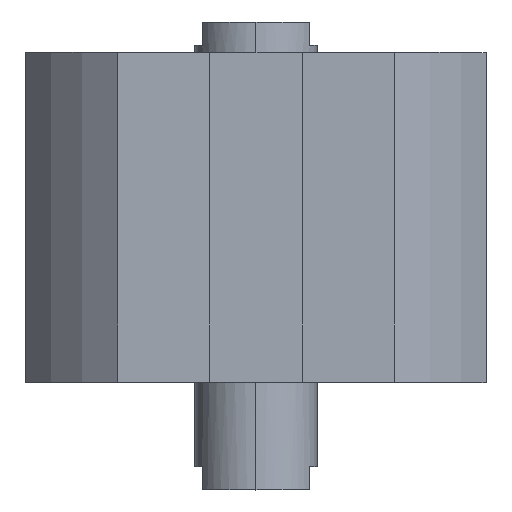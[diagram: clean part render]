
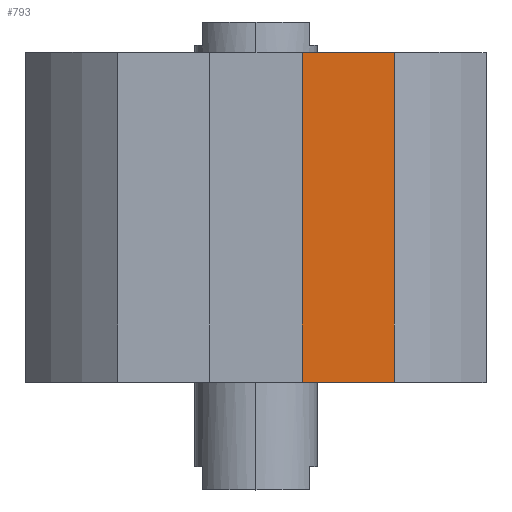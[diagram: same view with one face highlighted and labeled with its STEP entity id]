
A CAD part, top view. The second image highlights one B-rep face of the part: STEP entity #793.
In plain terms, the highlighted planar face has unit normal (0, 0, 1).
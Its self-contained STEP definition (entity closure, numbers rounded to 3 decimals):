
#21 = EDGE_CURVE ( 'NONE', #1596, #1365, #1420, .T. ) ;
#93 = DIRECTION ( 'NONE',  ( 0., 1., 0. ) ) ;
#140 = ORIENTED_EDGE ( 'NONE', *, *, #21, .T. ) ;
#248 = EDGE_CURVE ( 'NONE', #556, #1596, #2419, .T. ) ;
#556 = VERTEX_POINT ( 'NONE', #3495 ) ;
#570 = ORIENTED_EDGE ( 'NONE', *, *, #699, .F. ) ;
#646 = ORIENTED_EDGE ( 'NONE', *, *, #1737, .F. ) ;
#699 = EDGE_CURVE ( 'NONE', #556, #2090, #827, .T. ) ;
#793 = ADVANCED_FACE ( 'NONE', ( #3549 ), #877, .T. ) ;
#827 = LINE ( 'NONE', #3884, #4038 ) ;
#877 = PLANE ( 'NONE',  #3553 ) ;
#928 = DIRECTION ( 'NONE',  ( 1., 0., 0. ) ) ;
#1234 = DIRECTION ( 'NONE',  ( 0., 1., 0. ) ) ;
#1365 = VERTEX_POINT ( 'NONE', #1952 ) ;
#1420 = LINE ( 'NONE', #3676, #1866 ) ;
#1477 = VECTOR ( 'NONE', #928, 1000. ) ;
#1545 = DIRECTION ( 'NONE',  ( 1., 0., 0. ) ) ;
#1596 = VERTEX_POINT ( 'NONE', #2516 ) ;
#1737 = EDGE_CURVE ( 'NONE', #2090, #1365, #3217, .T. ) ;
#1866 = VECTOR ( 'NONE', #1234, 1000. ) ;
#1892 = EDGE_LOOP ( 'NONE', ( #646, #570, #3442, #140 ) ) ;
#1952 = CARTESIAN_POINT ( 'NONE',  ( 18.028, 0., 30. ) ) ;
#2090 = VERTEX_POINT ( 'NONE', #3837 ) ;
#2219 = DIRECTION ( 'NONE',  ( 0., 0., 1. ) ) ;
#2419 = LINE ( 'NONE', #4447, #1477 ) ;
#2516 = CARTESIAN_POINT ( 'NONE',  ( 18.028, -43., 30. ) ) ;
#2928 = CARTESIAN_POINT ( 'NONE',  ( 0., 0., 30. ) ) ;
#3217 = LINE ( 'NONE', #2928, #4362 ) ;
#3442 = ORIENTED_EDGE ( 'NONE', *, *, #248, .T. ) ;
#3495 = CARTESIAN_POINT ( 'NONE',  ( 6., -43., 30. ) ) ;
#3549 = FACE_OUTER_BOUND ( 'NONE', #1892, .T. ) ;
#3553 = AXIS2_PLACEMENT_3D ( 'NONE', #3965, #2219, #3948 ) ;
#3676 = CARTESIAN_POINT ( 'NONE',  ( 18.028, -43., 30. ) ) ;
#3837 = CARTESIAN_POINT ( 'NONE',  ( 6., 0., 30. ) ) ;
#3884 = CARTESIAN_POINT ( 'NONE',  ( 6., -43., 30. ) ) ;
#3948 = DIRECTION ( 'NONE',  ( 1., 0., 0. ) ) ;
#3965 = CARTESIAN_POINT ( 'NONE',  ( 0., -43., 30. ) ) ;
#4038 = VECTOR ( 'NONE', #93, 1000. ) ;
#4362 = VECTOR ( 'NONE', #1545, 1000. ) ;
#4447 = CARTESIAN_POINT ( 'NONE',  ( 0., -43., 30. ) ) ;
